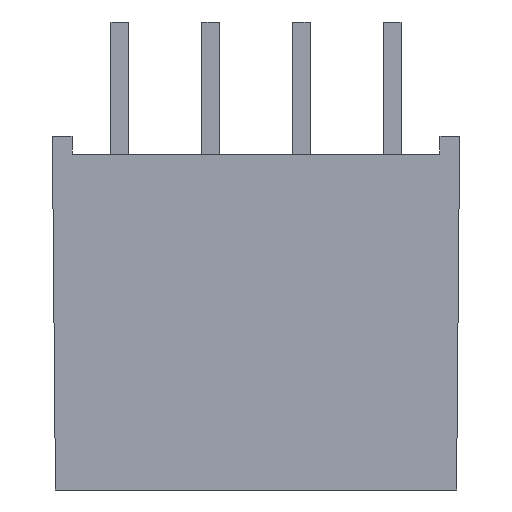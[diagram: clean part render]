
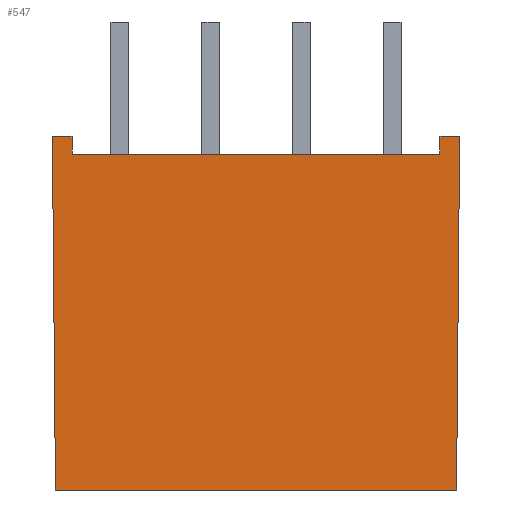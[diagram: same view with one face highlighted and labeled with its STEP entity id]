
A CAD part, front view. The second image highlights one B-rep face of the part: STEP entity #547.
In plain terms, the highlighted planar face has unit normal (0, -1, -0.009).
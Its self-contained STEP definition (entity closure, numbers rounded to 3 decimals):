
#45=FACE_OUTER_BOUND('',#79,.T.);
#79=EDGE_LOOP('',(#467,#468,#469,#470,#471,#472,#473,#474));
#132=LINE('',#823,#204);
#137=LINE('',#832,#209);
#138=LINE('',#835,#210);
#141=LINE('',#841,#213);
#146=LINE('',#850,#218);
#147=LINE('',#853,#219);
#150=LINE('',#859,#222);
#151=LINE('',#860,#223);
#204=VECTOR('',#676,10.3);
#209=VECTOR('',#683,0.5);
#210=VECTOR('',#686,0.5);
#213=VECTOR('',#691,0.55);
#218=VECTOR('',#698,0.55);
#219=VECTOR('',#701,9.901);
#222=VECTOR('',#706,9.901);
#223=VECTOR('',#707,11.227);
#259=VERTEX_POINT('',#819);
#261=VERTEX_POINT('',#822);
#264=VERTEX_POINT('',#830);
#265=VERTEX_POINT('',#834);
#267=VERTEX_POINT('',#840);
#270=VERTEX_POINT('',#848);
#271=VERTEX_POINT('',#852);
#273=VERTEX_POINT('',#858);
#324=EDGE_CURVE('',#261,#259,#132,.T.);
#329=EDGE_CURVE('',#259,#264,#137,.T.);
#330=EDGE_CURVE('',#265,#261,#138,.T.);
#333=EDGE_CURVE('',#267,#265,#141,.T.);
#338=EDGE_CURVE('',#264,#270,#146,.T.);
#339=EDGE_CURVE('',#271,#267,#147,.F.);
#342=EDGE_CURVE('',#273,#270,#150,.F.);
#343=EDGE_CURVE('',#271,#273,#151,.T.);
#467=ORIENTED_EDGE('',*,*,#329,.T.);
#468=ORIENTED_EDGE('',*,*,#338,.T.);
#469=ORIENTED_EDGE('',*,*,#342,.F.);
#470=ORIENTED_EDGE('',*,*,#343,.F.);
#471=ORIENTED_EDGE('',*,*,#339,.T.);
#472=ORIENTED_EDGE('',*,*,#333,.T.);
#473=ORIENTED_EDGE('',*,*,#330,.T.);
#474=ORIENTED_EDGE('',*,*,#324,.T.);
#517=PLANE('',#579);
#547=ADVANCED_FACE('',(#45),#517,.T.);
#579=AXIS2_PLACEMENT_3D('',#857,#704,#705);
#676=DIRECTION('',(-1.,0.,0.));
#683=DIRECTION('',(0.,-0.009,1.));
#686=DIRECTION('',(0.,0.009,-1.));
#691=DIRECTION('',(-1.,0.,0.));
#698=DIRECTION('',(-1.,0.,0.));
#701=DIRECTION('',(-0.009,0.009,-1.));
#704=DIRECTION('center_axis',(0.,-1.,-0.009));
#705=DIRECTION('ref_axis',(0.,0.009,-1.));
#706=DIRECTION('',(0.009,0.009,-1.));
#707=DIRECTION('',(-1.,0.,0.));
#819=CARTESIAN_POINT('',(-5.15,-2.996,9.4));
#822=CARTESIAN_POINT('',(5.15,-2.996,9.4));
#823=CARTESIAN_POINT('',(0.275,-2.996,9.4));
#830=CARTESIAN_POINT('',(-5.15,-3.,9.9));
#832=CARTESIAN_POINT('',(-5.15,-2.957,4.95));
#834=CARTESIAN_POINT('',(5.15,-3.,9.9));
#835=CARTESIAN_POINT('',(5.15,-2.955,4.7));
#840=CARTESIAN_POINT('',(5.7,-3.,9.9));
#841=CARTESIAN_POINT('',(5.7,-3.,9.9));
#848=CARTESIAN_POINT('',(-5.7,-3.,9.9));
#850=CARTESIAN_POINT('',(5.7,-3.,9.9));
#852=CARTESIAN_POINT('',(5.614,-2.914,0.));
#853=CARTESIAN_POINT('',(5.613,-2.913,-0.025));
#857=CARTESIAN_POINT('Origin',(5.7,-2.914,0.));
#858=CARTESIAN_POINT('',(-5.614,-2.914,0.));
#859=CARTESIAN_POINT('',(-5.613,-2.913,-0.049));
#860=CARTESIAN_POINT('',(2.85,-2.914,0.));
